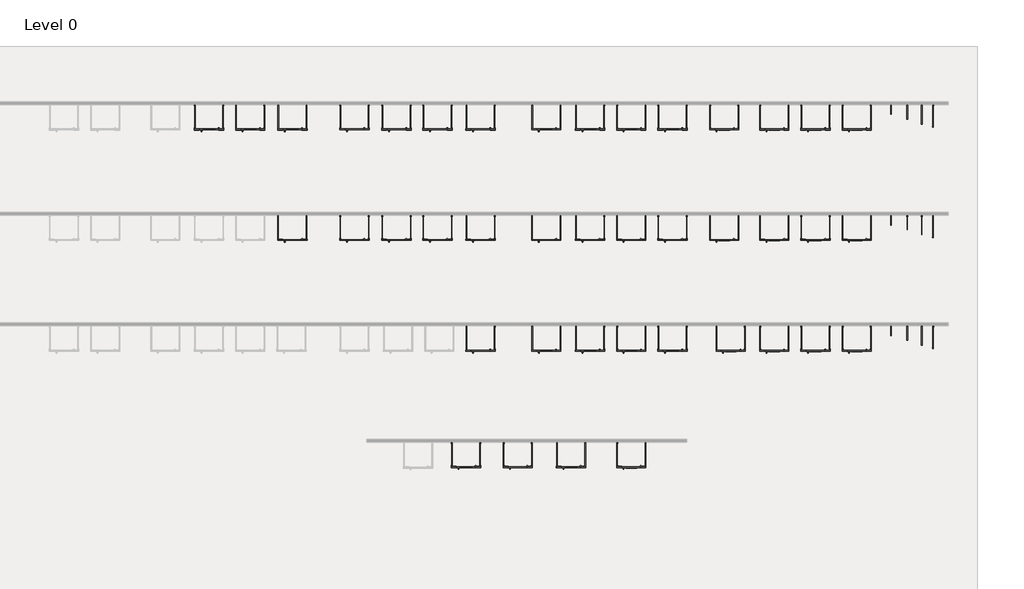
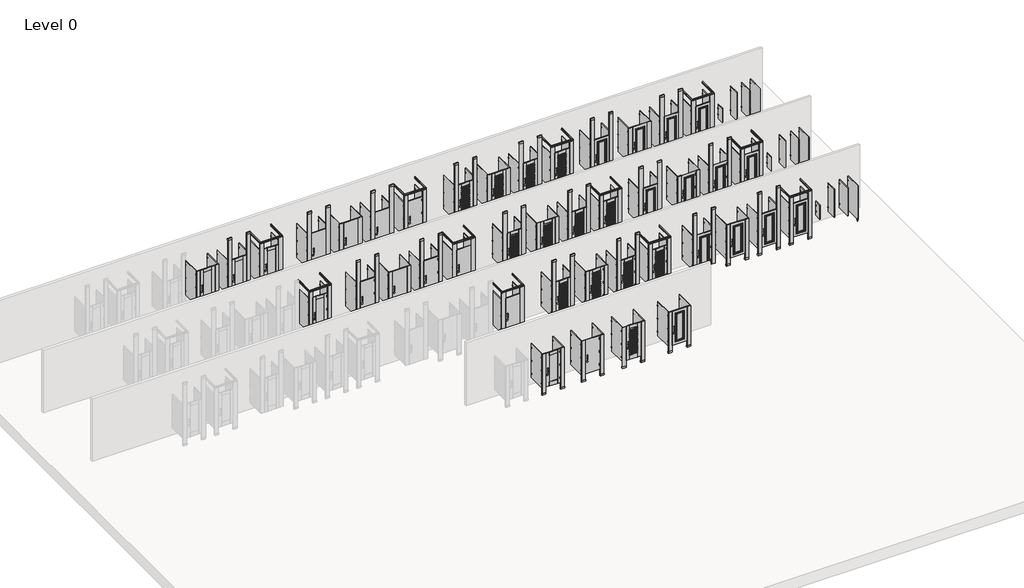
# One storey, part 2 of 2: 53 proxies.
"""IFC4 building model written with IfcOpenShell, lengths in millimetres."""

from ifc_helpers import new_model, si_unit, origin, place, context, project, spatial, transform, mapped, element, save
from components import specialty_equipment_fc4f7036, specialty_equipment_eb44fc01, specialty_equipment_aeacbdde, specialty_equipment_37ad36b8, specialty_equipment_d81d8e88, specialty_equipment_afbbe76a, specialty_equipment_23f0d180, specialty_equipment_b772b144, specialty_equipment_89fad2ef, specialty_equipment_a65be1ca, specialty_equipment_5617d1bd, specialty_equipment_bc4b3a95, compact_laminate_ceiling_hung_flat_panel_door_61d9c0c5, compact_laminate_ceiling_hung_louver_door_77dd7178, compact_laminate_ceiling_hung_molding_door_30a494e6, compact_laminate_floor_mounted_flat_panel_door_a3374b17, compact_laminate_floor_mounted_louver_door_74d75947, compact_laminate_floor_mounted_molding_door_0e6e7056, compact_laminate_floor_to_ceiling_flat_panel_door_64829fb1, compact_laminate_floor_to_ceiling_louver_door_2ef58aba, compact_laminate_floor_to_ceiling_molding_door_4631fa89, high_pressure_laminate_ceiling_hung_flat_panel_door_457f9348, high_pressure_laminate_ceiling_hung_louver_door_53e2b2da, high_pressure_laminate_ceiling_hung_molding_door_ac1d6351, high_pressure_laminate_floor_mounted_door_lite_door_59ee385d, high_pressure_laminate_floor_mounted_flat_panel_door_f86224eb, high_pressure_laminate_floor_mounted_louver_door_e92e4241, high_pressure_laminate_floor_mounted_molding_door_ac0f712a, high_pressure_laminate_floor_to_ceiling_louver_door_e7c8061b, high_pressure_laminate_floor_to_ceiling_molding_door_967f00b9, urinal_partition_12x24_dcd48c62, urinal_partition_12x24_2b7a6f32, urinal_partition_18x48_1ea6b7db, urinal_partition_18x48_9b326629, urinal_partition_24x48_73d95201, urinal_partition_24x48_a16d5c53, urinal_partition_create_custom_size_ba70e870, urinal_partition_create_custom_size_9d5b4721

model = new_model("IFC4")

# Units and contexts
model_context = context("Model", 3, world=origin())
ifc_project = project(units=[si_unit("LENGTHUNIT", "METRE", prefix="MILLI")], contexts=[model_context])

# Site, building, storey
site = spatial("IfcSite", under=ifc_project)
building = spatial("IfcBuilding", under=site)
storey = spatial("IfcBuildingStorey", under=building, Name="Level 0", Elevation=0.0)

# Proxies
placement = place(None, origin())
specialty_equipment_shape = specialty_equipment_fc4f7036(model_context)
element("IfcBuildingElementProxy", 1, Name="Toilet-Partition_Ironwood-Mfg_High-Pressure-Laminate : High Pressure Laminate - Floor to Ceiling - Door Lite Door", ObjectType="Toilet-Partition_Ironwood-Mfg_High-Pressure-Laminate : High Pressure Laminate - Floor to Ceiling - Door Lite Door", at=placement, inside=storey, context=model_context, shape_type="MappedRepresentation", body=[
    mapped(specialty_equipment_shape, transform((-6284.7127178, 12246.3462325, 0.0), x_axis=(1.0, 0.0, 0.0), y_axis=(0.0, 1.0, 0.0), z_axis=(0.0, 0.0, 1.0))),
])
specialty_equipment_2_shape = specialty_equipment_eb44fc01(model_context)
element("IfcBuildingElementProxy", 2, Name="Toilet-Partition_Ironwood-Mfg_High-Pressure-Laminate : High Pressure Laminate - Headrail Braced - Door Lite Door", ObjectType="Toilet-Partition_Ironwood-Mfg_High-Pressure-Laminate : High Pressure Laminate - Headrail Braced - Door Lite Door", at=placement, inside=storey, context=model_context, shape_type="MappedRepresentation", body=[
    mapped(specialty_equipment_2_shape, transform((-4960.1614549, 12246.3462325, 0.0), x_axis=(1.0, 0.0, 0.0), y_axis=(0.0, 1.0, 0.0), z_axis=(0.0, 0.0, 1.0))),
])
specialty_equipment_3_shape = specialty_equipment_aeacbdde(model_context)
element("IfcBuildingElementProxy", 3, Name="Toilet-Partition_Ironwood-Mfg_High-Pressure-Laminate : High Pressure Laminate - Floor to Ceiling - Flat Panel Door", ObjectType="Toilet-Partition_Ironwood-Mfg_High-Pressure-Laminate : High Pressure Laminate - Floor to Ceiling - Flat Panel Door", at=placement, inside=storey, context=model_context, shape_type="MappedRepresentation", body=[
    mapped(specialty_equipment_3_shape, transform((-398.0614549, 12246.3462325, 0.0), x_axis=(1.0, 0.0, 0.0), y_axis=(0.0, 1.0, 0.0), z_axis=(0.0, 0.0, 1.0))),
])
specialty_equipment_4_shape = specialty_equipment_37ad36b8(model_context)
element("IfcBuildingElementProxy", 4, Name="Toilet-Partition_Ironwood-Mfg_High-Pressure-Laminate : High Pressure Laminate - Headrail Braced - Flat Panel Door", ObjectType="Toilet-Partition_Ironwood-Mfg_High-Pressure-Laminate : High Pressure Laminate - Headrail Braced - Flat Panel Door", at=placement, inside=storey, context=model_context, shape_type="MappedRepresentation", body=[
    mapped(specialty_equipment_4_shape, transform((954.2872822, 12246.3462325, 0.0), x_axis=(1.0, 0.0, 0.0), y_axis=(0.0, 1.0, 0.0), z_axis=(0.0, 0.0, 1.0))),
])
specialty_equipment_5_shape = specialty_equipment_d81d8e88(model_context)
specialty_equipment_6_shape = specialty_equipment_afbbe76a(model_context)
element("IfcBuildingElementProxy", 5, Name="Toilet-Partition_Ironwood-Mfg_High-Pressure-Laminate : High Pressure Laminate - Headrail Braced - Louver Door", ObjectType="Toilet-Partition_Ironwood-Mfg_High-Pressure-Laminate : High Pressure Laminate - Headrail Braced - Louver Door", at=placement, inside=storey, context=model_context, shape_type="MappedRepresentation", body=[
    mapped(specialty_equipment_5_shape, transform((6987.0226526, 12246.3462325, 0.0), x_axis=(1.0, 0.0, 0.0), y_axis=(0.0, 1.0, 0.0), z_axis=(0.0, 0.0, 1.0))),
    mapped(specialty_equipment_6_shape, transform((6987.0226526, 12246.3462325, 0.0), x_axis=(1.0, 0.0, 0.0), y_axis=(0.0, 1.0, 0.0), z_axis=(0.0, 0.0, 1.0))),
])
specialty_equipment_7_shape = specialty_equipment_23f0d180(model_context)
element("IfcBuildingElementProxy", 6, Name="Toilet-Partition_Ironwood-Mfg_High-Pressure-Laminate : High Pressure Laminate - Headrail Braced - Molding Door", ObjectType="Toilet-Partition_Ironwood-Mfg_High-Pressure-Laminate : High Pressure Laminate - Headrail Braced - Molding Door", at=placement, inside=storey, context=model_context, shape_type="MappedRepresentation", body=[
    mapped(specialty_equipment_7_shape, transform((12778.2226526, 12246.3462325, 0.0), x_axis=(1.0, 0.0, 0.0), y_axis=(0.0, 1.0, 0.0), z_axis=(0.0, 0.0, 1.0))),
])
specialty_equipment_8_shape = specialty_equipment_b772b144(model_context)
element("IfcBuildingElementProxy", 7, Name="Toilet-Partition_Ironwood-Mfg_Compact-Laminate : Compact Laminate - Headrail Braced - Door Lite Door", ObjectType="Toilet-Partition_Ironwood-Mfg_Compact-Laminate : Compact Laminate - Headrail Braced - Door Lite Door", at=placement, inside=storey, context=model_context, shape_type="MappedRepresentation", body=[
    mapped(specialty_equipment_8_shape, transform((-4960.1614549, 8769.8462325, 0.0), x_axis=(1.0, 0.0, 0.0), y_axis=(0.0, 1.0, 0.0), z_axis=(0.0, 0.0, 1.0))),
])
specialty_equipment_9_shape = specialty_equipment_89fad2ef(model_context)
element("IfcBuildingElementProxy", 8, Name="Toilet-Partition_Ironwood-Mfg_Compact-Laminate : Compact Laminate - Headrail Braced - Flat Panel Door", ObjectType="Toilet-Partition_Ironwood-Mfg_Compact-Laminate : Compact Laminate - Headrail Braced - Flat Panel Door", at=placement, inside=storey, context=model_context, shape_type="MappedRepresentation", body=[
    mapped(specialty_equipment_9_shape, transform((954.2872822, 8769.8462325, 0.0), x_axis=(1.0, 0.0, 0.0), y_axis=(0.0, 1.0, 0.0), z_axis=(0.0, 0.0, 1.0))),
])
specialty_equipment_10_shape = specialty_equipment_a65be1ca(model_context)
specialty_equipment_11_shape = specialty_equipment_5617d1bd(model_context)
element("IfcBuildingElementProxy", 9, Name="Toilet-Partition_Ironwood-Mfg_Compact-Laminate : Compact Laminate - Headrail Braced - Louver Door", ObjectType="Toilet-Partition_Ironwood-Mfg_Compact-Laminate : Compact Laminate - Headrail Braced - Louver Door", at=placement, inside=storey, context=model_context, shape_type="MappedRepresentation", body=[
    mapped(specialty_equipment_10_shape, transform((6987.0226526, 8769.8462325, 0.0), x_axis=(1.0, 0.0, 0.0), y_axis=(0.0, 1.0, 0.0), z_axis=(0.0, 0.0, 1.0))),
    mapped(specialty_equipment_11_shape, transform((6987.0226526, 8769.8462325, 0.0), x_axis=(1.0, 0.0, 0.0), y_axis=(0.0, 1.0, 0.0), z_axis=(0.0, 0.0, 1.0))),
])
specialty_equipment_12_shape = specialty_equipment_bc4b3a95(model_context)
element("IfcBuildingElementProxy", 10, Name="Toilet-Partition_Ironwood-Mfg_Compact-Laminate : Compact Laminate - Headrail Braced - Molding Door", ObjectType="Toilet-Partition_Ironwood-Mfg_Compact-Laminate : Compact Laminate - Headrail Braced - Molding Door", at=placement, inside=storey, context=model_context, shape_type="MappedRepresentation", body=[
    mapped(specialty_equipment_12_shape, transform((12778.2226526, 8769.8462325, 0.0), x_axis=(1.0, 0.0, 0.0), y_axis=(0.0, 1.0, 0.0), z_axis=(0.0, 0.0, 1.0))),
])
element("IfcBuildingElementProxy", 11, Name="Toilet-Partition_Ironwood-Mfg_Wood-Veneer : Wood Veneer - Headrail Braced - Flat Panel Door", ObjectType="Toilet-Partition_Ironwood-Mfg_Wood-Veneer : Wood Veneer - Headrail Braced - Flat Panel Door", at=placement, inside=storey, context=model_context, shape_type="MappedRepresentation", body=[
    mapped(specialty_equipment_4_shape, transform((954.2872822, 5293.3462325, 0.0), x_axis=(1.0, 0.0, 0.0), y_axis=(0.0, 1.0, 0.0), z_axis=(0.0, 0.0, 1.0))),
])
element("IfcBuildingElementProxy", 12, Name="Toilet-Partition_Ironwood-Mfg_Wood-Veneer : Wood Veneer - Headrail Braced - Louver Door", ObjectType="Toilet-Partition_Ironwood-Mfg_Wood-Veneer : Wood Veneer - Headrail Braced - Louver Door", at=placement, inside=storey, context=model_context, shape_type="MappedRepresentation", body=[
    mapped(specialty_equipment_5_shape, transform((6987.0226526, 5293.3462325, 0.0), x_axis=(1.0, 0.0, 0.0), y_axis=(0.0, 1.0, 0.0), z_axis=(0.0, 0.0, 1.0))),
    mapped(specialty_equipment_6_shape, transform((6987.0226526, 5293.3462325, 0.0), x_axis=(1.0, 0.0, 0.0), y_axis=(0.0, 1.0, 0.0), z_axis=(0.0, 0.0, 1.0))),
])
element("IfcBuildingElementProxy", 13, Name="Toilet-Partition_Ironwood-Mfg_Wood-Veneer : Wood Veneer - Headrail Braced - Molding Door", ObjectType="Toilet-Partition_Ironwood-Mfg_Wood-Veneer : Wood Veneer - Headrail Braced - Molding Door", at=placement, inside=storey, context=model_context, shape_type="MappedRepresentation", body=[
    mapped(specialty_equipment_7_shape, transform((12778.2226526, 5293.3462325, 0.0), x_axis=(1.0, 0.0, 0.0), y_axis=(0.0, 1.0, 0.0), z_axis=(0.0, 0.0, 1.0))),
])
compact_laminate_ceiling_hung_flat_panel_door_shape = compact_laminate_ceiling_hung_flat_panel_door_61d9c0c5(model_context)
element("IfcBuildingElementProxy", 14, Name="Toilet-Partition_Ironwood-Mfg_Compact-Laminate : Compact Laminate - Ceiling Hung - Flat Panel Door", ObjectType="Toilet-Partition_Ironwood-Mfg_Compact-Laminate : Compact Laminate - Ceiling Hung - Flat Panel Door", at=placement, inside=storey, context=model_context, shape_type="MappedRepresentation", body=[
    mapped(compact_laminate_ceiling_hung_flat_panel_door_shape, transform((-3008.1127178, 8769.8462325, 0.0), x_axis=(1.0, 0.0, 0.0), y_axis=(0.0, 1.0, 0.0), z_axis=(0.0, 0.0, 1.0))),
])
compact_laminate_ceiling_hung_louver_door_shape = compact_laminate_ceiling_hung_louver_door_77dd7178(model_context)
element("IfcBuildingElementProxy", 15, Name="Toilet-Partition_Ironwood-Mfg_Compact-Laminate : Compact Laminate - Ceiling Hung - Louver Door", ObjectType="Toilet-Partition_Ironwood-Mfg_Compact-Laminate : Compact Laminate - Ceiling Hung - Louver Door", at=placement, inside=storey, context=model_context, shape_type="MappedRepresentation", body=[
    mapped(compact_laminate_ceiling_hung_louver_door_shape, transform((3024.6226526, 8769.8462325, 0.0), x_axis=(1.0, 0.0, 0.0), y_axis=(0.0, 1.0, 0.0), z_axis=(0.0, 0.0, 1.0))),
])
compact_laminate_ceiling_hung_molding_door_shape = compact_laminate_ceiling_hung_molding_door_30a494e6(model_context)
element("IfcBuildingElementProxy", 16, Name="Toilet-Partition_Ironwood-Mfg_Compact-Laminate : Compact Laminate - Ceiling Hung - Molding Door", ObjectType="Toilet-Partition_Ironwood-Mfg_Compact-Laminate : Compact Laminate - Ceiling Hung - Molding Door", at=placement, inside=storey, context=model_context, shape_type="MappedRepresentation", body=[
    mapped(compact_laminate_ceiling_hung_molding_door_shape, transform((8614.3010451, 8769.8462325, 0.0), x_axis=(1.0, 0.0, 0.0), y_axis=(0.0, 1.0, 0.0), z_axis=(0.0, 0.0, 1.0))),
])
compact_laminate_floor_mounted_flat_panel_door_shape = compact_laminate_floor_mounted_flat_panel_door_a3374b17(model_context)
element("IfcBuildingElementProxy", 17, Name="Toilet-Partition_Ironwood-Mfg_Compact-Laminate : Compact Laminate - Floor Mounted - Flat Panel Door", ObjectType="Toilet-Partition_Ironwood-Mfg_Compact-Laminate : Compact Laminate - Floor Mounted - Flat Panel Door", at=placement, inside=storey, context=model_context, shape_type="MappedRepresentation", body=[
    mapped(compact_laminate_floor_mounted_flat_panel_door_shape, transform((-1686.8614549, 8769.8462325, 0.0), x_axis=(1.0, 0.0, 0.0), y_axis=(0.0, 1.0, 0.0), z_axis=(0.0, 0.0, 1.0))),
])
compact_laminate_floor_mounted_louver_door_shape = compact_laminate_floor_mounted_louver_door_74d75947(model_context)
element("IfcBuildingElementProxy", 18, Name="Toilet-Partition_Ironwood-Mfg_Compact-Laminate : Compact Laminate - Floor Mounted - Louver Door", ObjectType="Toilet-Partition_Ironwood-Mfg_Compact-Laminate : Compact Laminate - Floor Mounted - Louver Door", at=placement, inside=storey, context=model_context, shape_type="MappedRepresentation", body=[
    mapped(compact_laminate_floor_mounted_louver_door_shape, transform((4396.2226526, 8769.8462325, 0.0), x_axis=(1.0, 0.0, 0.0), y_axis=(0.0, 1.0, 0.0), z_axis=(0.0, 0.0, 1.0))),
])
compact_laminate_floor_mounted_molding_door_shape = compact_laminate_floor_mounted_molding_door_0e6e7056(model_context)
element("IfcBuildingElementProxy", 19, Name="Toilet-Partition_Ironwood-Mfg_Compact-Laminate : Compact Laminate - Floor Mounted - Molding Door", ObjectType="Toilet-Partition_Ironwood-Mfg_Compact-Laminate : Compact Laminate - Floor Mounted - Molding Door", at=placement, inside=storey, context=model_context, shape_type="MappedRepresentation", body=[
    mapped(compact_laminate_floor_mounted_molding_door_shape, transform((10187.4226526, 8769.8462325, 0.0), x_axis=(1.0, 0.0, 0.0), y_axis=(0.0, 1.0, 0.0), z_axis=(0.0, 0.0, 1.0))),
])
compact_laminate_floor_to_ceiling_flat_panel_door_shape = compact_laminate_floor_to_ceiling_flat_panel_door_64829fb1(model_context)
element("IfcBuildingElementProxy", 20, Name="Toilet-Partition_Ironwood-Mfg_Compact-Laminate : Compact Laminate - Floor to Ceiling - Flat Panel Door", ObjectType="Toilet-Partition_Ironwood-Mfg_Compact-Laminate : Compact Laminate - Floor to Ceiling - Flat Panel Door", at=placement, inside=storey, context=model_context, shape_type="MappedRepresentation", body=[
    mapped(compact_laminate_floor_to_ceiling_flat_panel_door_shape, transform((-398.0614549, 8769.8462325, 0.0), x_axis=(1.0, 0.0, 0.0), y_axis=(0.0, 1.0, 0.0), z_axis=(0.0, 0.0, 1.0))),
])
compact_laminate_floor_to_ceiling_louver_door_shape = compact_laminate_floor_to_ceiling_louver_door_2ef58aba(model_context)
element("IfcBuildingElementProxy", 21, Name="Toilet-Partition_Ironwood-Mfg_Compact-Laminate : Compact Laminate - Floor to Ceiling - Louver Door", ObjectType="Toilet-Partition_Ironwood-Mfg_Compact-Laminate : Compact Laminate - Floor to Ceiling - Louver Door", at=placement, inside=storey, context=model_context, shape_type="MappedRepresentation", body=[
    mapped(compact_laminate_floor_to_ceiling_louver_door_shape, transform((5691.6226526, 8769.8462325, 0.0), x_axis=(1.0, 0.0, 0.0), y_axis=(0.0, 1.0, 0.0), z_axis=(0.0, 0.0, 1.0))),
])
compact_laminate_floor_to_ceiling_molding_door_shape = compact_laminate_floor_to_ceiling_molding_door_4631fa89(model_context)
element("IfcBuildingElementProxy", 22, Name="Toilet-Partition_Ironwood-Mfg_Compact-Laminate : Compact Laminate - Floor to Ceiling - Molding Door", ObjectType="Toilet-Partition_Ironwood-Mfg_Compact-Laminate : Compact Laminate - Floor to Ceiling - Molding Door", at=placement, inside=storey, context=model_context, shape_type="MappedRepresentation", body=[
    mapped(compact_laminate_floor_to_ceiling_molding_door_shape, transform((11482.8226526, 8769.8462325, 0.0), x_axis=(1.0, 0.0, 0.0), y_axis=(0.0, 1.0, 0.0), z_axis=(0.0, 0.0, 1.0))),
])
high_pressure_laminate_ceiling_hung_flat_panel_door_shape = high_pressure_laminate_ceiling_hung_flat_panel_door_457f9348(model_context)
element("IfcBuildingElementProxy", 23, Name="Toilet-Partition_Ironwood-Mfg_High-Pressure-Laminate : High Pressure Laminate - Ceiling Hung - Flat Panel Door", ObjectType="Toilet-Partition_Ironwood-Mfg_High-Pressure-Laminate : High Pressure Laminate - Ceiling Hung - Flat Panel Door", at=placement, inside=storey, context=model_context, shape_type="MappedRepresentation", body=[
    mapped(high_pressure_laminate_ceiling_hung_flat_panel_door_shape, transform((-3008.1127178, 12246.3462325, 0.0), x_axis=(1.0, 0.0, 0.0), y_axis=(0.0, 1.0, 0.0), z_axis=(0.0, 0.0, 1.0))),
])
high_pressure_laminate_ceiling_hung_louver_door_shape = high_pressure_laminate_ceiling_hung_louver_door_53e2b2da(model_context)
element("IfcBuildingElementProxy", 24, Name="Toilet-Partition_Ironwood-Mfg_High-Pressure-Laminate : High Pressure Laminate - Ceiling Hung - Louver Door", ObjectType="Toilet-Partition_Ironwood-Mfg_High-Pressure-Laminate : High Pressure Laminate - Ceiling Hung - Louver Door", at=placement, inside=storey, context=model_context, shape_type="MappedRepresentation", body=[
    mapped(high_pressure_laminate_ceiling_hung_louver_door_shape, transform((3024.6226526, 12246.3462325, 0.0), x_axis=(1.0, 0.0, 0.0), y_axis=(0.0, 1.0, 0.0), z_axis=(0.0, 0.0, 1.0))),
])
high_pressure_laminate_ceiling_hung_molding_door_shape = high_pressure_laminate_ceiling_hung_molding_door_ac1d6351(model_context)
element("IfcBuildingElementProxy", 25, Name="Toilet-Partition_Ironwood-Mfg_High-Pressure-Laminate : High Pressure Laminate - Ceiling Hung - Molding Door", ObjectType="Toilet-Partition_Ironwood-Mfg_High-Pressure-Laminate : High Pressure Laminate - Ceiling Hung - Molding Door", at=placement, inside=storey, context=model_context, shape_type="MappedRepresentation", body=[
    mapped(high_pressure_laminate_ceiling_hung_molding_door_shape, transform((8614.3010451, 12246.3462325, 0.0), x_axis=(1.0, 0.0, 0.0), y_axis=(0.0, 1.0, 0.0), z_axis=(0.0, 0.0, 1.0))),
])
high_pressure_laminate_floor_mounted_door_lite_door_shape = high_pressure_laminate_floor_mounted_door_lite_door_59ee385d(model_context)
element("IfcBuildingElementProxy", 26, Name="Toilet-Partition_Ironwood-Mfg_High-Pressure-Laminate : High Pressure Laminate - Floor Mounted - Door Lite Door", ObjectType="Toilet-Partition_Ironwood-Mfg_High-Pressure-Laminate : High Pressure Laminate - Floor Mounted - Door Lite Door", at=placement, inside=storey, context=model_context, shape_type="MappedRepresentation", body=[
    mapped(high_pressure_laminate_floor_mounted_door_lite_door_shape, transform((-7580.1127178, 12246.3462325, 0.0), x_axis=(1.0, 0.0, 0.0), y_axis=(0.0, 1.0, 0.0), z_axis=(0.0, 0.0, 1.0))),
])
high_pressure_laminate_floor_mounted_flat_panel_door_shape = high_pressure_laminate_floor_mounted_flat_panel_door_f86224eb(model_context)
element("IfcBuildingElementProxy", 27, Name="Toilet-Partition_Ironwood-Mfg_High-Pressure-Laminate : High Pressure Laminate - Floor Mounted - Flat Panel Door", ObjectType="Toilet-Partition_Ironwood-Mfg_High-Pressure-Laminate : High Pressure Laminate - Floor Mounted - Flat Panel Door", at=placement, inside=storey, context=model_context, shape_type="MappedRepresentation", body=[
    mapped(high_pressure_laminate_floor_mounted_flat_panel_door_shape, transform((-1686.8614549, 12246.3462325, 0.0), x_axis=(1.0, 0.0, 0.0), y_axis=(0.0, 1.0, 0.0), z_axis=(0.0, 0.0, 1.0))),
])
high_pressure_laminate_floor_mounted_louver_door_shape = high_pressure_laminate_floor_mounted_louver_door_e92e4241(model_context)
element("IfcBuildingElementProxy", 28, Name="Toilet-Partition_Ironwood-Mfg_High-Pressure-Laminate : High Pressure Laminate - Floor Mounted - Louver Door", ObjectType="Toilet-Partition_Ironwood-Mfg_High-Pressure-Laminate : High Pressure Laminate - Floor Mounted - Louver Door", at=placement, inside=storey, context=model_context, shape_type="MappedRepresentation", body=[
    mapped(high_pressure_laminate_floor_mounted_louver_door_shape, transform((4396.2226526, 12246.3462325, 0.0), x_axis=(1.0, 0.0, 0.0), y_axis=(0.0, 1.0, 0.0), z_axis=(0.0, 0.0, 1.0))),
])
high_pressure_laminate_floor_mounted_molding_door_shape = high_pressure_laminate_floor_mounted_molding_door_ac0f712a(model_context)
element("IfcBuildingElementProxy", 29, Name="Toilet-Partition_Ironwood-Mfg_High-Pressure-Laminate : High Pressure Laminate - Floor Mounted - Molding Door", ObjectType="Toilet-Partition_Ironwood-Mfg_High-Pressure-Laminate : High Pressure Laminate - Floor Mounted - Molding Door", at=placement, inside=storey, context=model_context, shape_type="MappedRepresentation", body=[
    mapped(high_pressure_laminate_floor_mounted_molding_door_shape, transform((10187.4226526, 12246.3462325, 0.0), x_axis=(1.0, 0.0, 0.0), y_axis=(0.0, 1.0, 0.0), z_axis=(0.0, 0.0, 1.0))),
])
high_pressure_laminate_floor_to_ceiling_louver_door_shape = high_pressure_laminate_floor_to_ceiling_louver_door_e7c8061b(model_context)
element("IfcBuildingElementProxy", 30, Name="Toilet-Partition_Ironwood-Mfg_High-Pressure-Laminate : High Pressure Laminate - Floor to Ceiling - Louver Door", ObjectType="Toilet-Partition_Ironwood-Mfg_High-Pressure-Laminate : High Pressure Laminate - Floor to Ceiling - Louver Door", at=placement, inside=storey, context=model_context, shape_type="MappedRepresentation", body=[
    mapped(high_pressure_laminate_floor_to_ceiling_louver_door_shape, transform((5691.6226526, 12246.3462325, 0.0), x_axis=(1.0, 0.0, 0.0), y_axis=(0.0, 1.0, 0.0), z_axis=(0.0, 0.0, 1.0))),
])
high_pressure_laminate_floor_to_ceiling_molding_door_shape = high_pressure_laminate_floor_to_ceiling_molding_door_967f00b9(model_context)
element("IfcBuildingElementProxy", 31, Name="Toilet-Partition_Ironwood-Mfg_High-Pressure-Laminate : High Pressure Laminate - Floor to Ceiling - Molding Door", ObjectType="Toilet-Partition_Ironwood-Mfg_High-Pressure-Laminate : High Pressure Laminate - Floor to Ceiling - Molding Door", at=placement, inside=storey, context=model_context, shape_type="MappedRepresentation", body=[
    mapped(high_pressure_laminate_floor_to_ceiling_molding_door_shape, transform((11482.8226526, 12246.3462325, 0.0), x_axis=(1.0, 0.0, 0.0), y_axis=(0.0, 1.0, 0.0), z_axis=(0.0, 0.0, 1.0))),
])
urinal_partition_12x24_shape = urinal_partition_12x24_dcd48c62(model_context)
element("IfcBuildingElementProxy", 32, Name="Urinal-Partition_Ironwood-Mfg : Urinal Partition - 12x24", ObjectType="Urinal-Partition_Ironwood-Mfg : Urinal Partition - 12x24", at=placement, inside=storey, context=model_context, shape_type="MappedRepresentation", body=[
    mapped(urinal_partition_12x24_shape, transform((14098.7872822, 5293.3462325, 0.0), x_axis=(1.0, 0.0, 0.0), y_axis=(0.0, 0.0, 1.0), z_axis=(0.0, -1.0, 0.0))),
])
urinal_partition_12x24_2_shape = urinal_partition_12x24_2b7a6f32(model_context)
element("IfcBuildingElementProxy", 33, Name="Urinal-Partition_Ironwood-Mfg : Urinal Partition - 12x24", ObjectType="Urinal-Partition_Ironwood-Mfg : Urinal Partition - 12x24", at=placement, inside=storey, context=model_context, shape_type="MappedRepresentation", body=[
    mapped(urinal_partition_12x24_2_shape, transform((14098.7872822, 8769.8462325, 0.0), x_axis=(1.0, 0.0, 0.0), y_axis=(0.0, 0.0, 1.0), z_axis=(0.0, -1.0, 0.0))),
])
element("IfcBuildingElementProxy", 34, Name="Urinal-Partition_Ironwood-Mfg : Urinal Partition - 12x24", ObjectType="Urinal-Partition_Ironwood-Mfg : Urinal Partition - 12x24", at=placement, inside=storey, context=model_context, shape_type="MappedRepresentation", body=[
    mapped(urinal_partition_12x24_shape, transform((14098.7872822, 12246.3462325, 0.0), x_axis=(1.0, 0.0, 0.0), y_axis=(0.0, 0.0, 1.0), z_axis=(0.0, -1.0, 0.0))),
])
urinal_partition_18x48_shape = urinal_partition_18x48_1ea6b7db(model_context)
element("IfcBuildingElementProxy", 35, Name="Urinal-Partition_Ironwood-Mfg : Urinal Partition - 18x48", ObjectType="Urinal-Partition_Ironwood-Mfg : Urinal Partition - 18x48", at=placement, inside=storey, context=model_context, shape_type="MappedRepresentation", body=[
    mapped(urinal_partition_18x48_shape, transform((14606.7872822, 5293.3462325, 0.0), x_axis=(1.0, 0.0, 0.0), y_axis=(0.0, 0.0, 1.0), z_axis=(0.0, -1.0, 0.0))),
])
urinal_partition_18x48_2_shape = urinal_partition_18x48_9b326629(model_context)
element("IfcBuildingElementProxy", 36, Name="Urinal-Partition_Ironwood-Mfg : Urinal Partition - 18x48", ObjectType="Urinal-Partition_Ironwood-Mfg : Urinal Partition - 18x48", at=placement, inside=storey, context=model_context, shape_type="MappedRepresentation", body=[
    mapped(urinal_partition_18x48_2_shape, transform((14606.7872822, 8769.8462325, 0.0), x_axis=(1.0, 0.0, 0.0), y_axis=(0.0, 0.0, 1.0), z_axis=(0.0, -1.0, 0.0))),
])
element("IfcBuildingElementProxy", 37, Name="Urinal-Partition_Ironwood-Mfg : Urinal Partition - 18x48", ObjectType="Urinal-Partition_Ironwood-Mfg : Urinal Partition - 18x48", at=placement, inside=storey, context=model_context, shape_type="MappedRepresentation", body=[
    mapped(urinal_partition_18x48_shape, transform((14606.7872822, 12246.3462325, 0.0), x_axis=(1.0, 0.0, 0.0), y_axis=(0.0, 0.0, 1.0), z_axis=(0.0, -1.0, 0.0))),
])
urinal_partition_24x48_shape = urinal_partition_24x48_73d95201(model_context)
element("IfcBuildingElementProxy", 38, Name="Urinal-Partition_Ironwood-Mfg : Urinal Partition - 24x48", ObjectType="Urinal-Partition_Ironwood-Mfg : Urinal Partition - 24x48", at=placement, inside=storey, context=model_context, shape_type="MappedRepresentation", body=[
    mapped(urinal_partition_24x48_shape, transform((15063.9872822, 5293.3462325, 0.0), x_axis=(1.0, 0.0, 0.0), y_axis=(0.0, 0.0, 1.0), z_axis=(0.0, -1.0, 0.0))),
])
urinal_partition_24x48_2_shape = urinal_partition_24x48_a16d5c53(model_context)
element("IfcBuildingElementProxy", 39, Name="Urinal-Partition_Ironwood-Mfg : Urinal Partition - 24x48", ObjectType="Urinal-Partition_Ironwood-Mfg : Urinal Partition - 24x48", at=placement, inside=storey, context=model_context, shape_type="MappedRepresentation", body=[
    mapped(urinal_partition_24x48_2_shape, transform((15063.9872822, 8769.8462325, 0.0), x_axis=(1.0, 0.0, 0.0), y_axis=(0.0, 0.0, 1.0), z_axis=(0.0, -1.0, 0.0))),
])
element("IfcBuildingElementProxy", 40, Name="Urinal-Partition_Ironwood-Mfg : Urinal Partition - 24x48", ObjectType="Urinal-Partition_Ironwood-Mfg : Urinal Partition - 24x48", at=placement, inside=storey, context=model_context, shape_type="MappedRepresentation", body=[
    mapped(urinal_partition_24x48_shape, transform((15063.9872822, 12246.3462325, 0.0), x_axis=(1.0, 0.0, 0.0), y_axis=(0.0, 0.0, 1.0), z_axis=(0.0, -1.0, 0.0))),
])
urinal_partition_create_custom_size_shape = urinal_partition_create_custom_size_ba70e870(model_context)
element("IfcBuildingElementProxy", 41, Name="Urinal-Partition_Ironwood-Mfg : Urinal Partition - Create Custom Size", ObjectType="Urinal-Partition_Ironwood-Mfg : Urinal Partition - Create Custom Size", at=placement, inside=storey, context=model_context, shape_type="MappedRepresentation", body=[
    mapped(urinal_partition_create_custom_size_shape, transform((15419.5872822, 5293.3462325, 0.0), x_axis=(1.0, 0.0, 0.0), y_axis=(0.0, 0.0, 1.0), z_axis=(0.0, -1.0, 0.0))),
])
urinal_partition_create_custom_size_2_shape = urinal_partition_create_custom_size_9d5b4721(model_context)
element("IfcBuildingElementProxy", 42, Name="Urinal-Partition_Ironwood-Mfg : Urinal Partition - Create Custom Size", ObjectType="Urinal-Partition_Ironwood-Mfg : Urinal Partition - Create Custom Size", at=placement, inside=storey, context=model_context, shape_type="MappedRepresentation", body=[
    mapped(urinal_partition_create_custom_size_2_shape, transform((15419.5872822, 8769.8462325, 0.0), x_axis=(1.0, 0.0, 0.0), y_axis=(0.0, 0.0, 1.0), z_axis=(0.0, -1.0, 0.0))),
])
element("IfcBuildingElementProxy", 43, Name="Urinal-Partition_Ironwood-Mfg : Urinal Partition - Create Custom Size", ObjectType="Urinal-Partition_Ironwood-Mfg : Urinal Partition - Create Custom Size", at=placement, inside=storey, context=model_context, shape_type="MappedRepresentation", body=[
    mapped(urinal_partition_create_custom_size_shape, transform((15419.5872822, 12246.3462325, 0.0), x_axis=(1.0, 0.0, 0.0), y_axis=(0.0, 0.0, 1.0), z_axis=(0.0, -1.0, 0.0))),
])
element("IfcBuildingElementProxy", 44, Name="Toilet-Partition_Ironwood-Mfg_Wood-Veneer : Wood Veneer - Ceiling Hung - Louver Door", ObjectType="Toilet-Partition_Ironwood-Mfg_Wood-Veneer : Wood Veneer - Ceiling Hung - Louver Door", at=placement, inside=storey, context=model_context, shape_type="MappedRepresentation", body=[
    mapped(high_pressure_laminate_ceiling_hung_louver_door_shape, transform((3024.6226526, 5293.3462325, 0.0), x_axis=(1.0, 0.0, 0.0), y_axis=(0.0, 1.0, 0.0), z_axis=(0.0, 0.0, 1.0))),
])
element("IfcBuildingElementProxy", 45, Name="Toilet-Partition_Ironwood-Mfg_Wood-Veneer : Wood Veneer - Ceiling Hung - Molding Door", ObjectType="Toilet-Partition_Ironwood-Mfg_Wood-Veneer : Wood Veneer - Ceiling Hung - Molding Door", at=placement, inside=storey, context=model_context, shape_type="MappedRepresentation", body=[
    mapped(high_pressure_laminate_ceiling_hung_molding_door_shape, transform((8815.8226526, 5293.3462325, 0.0), x_axis=(1.0, 0.0, 0.0), y_axis=(0.0, 1.0, 0.0), z_axis=(0.0, 0.0, 1.0))),
])
element("IfcBuildingElementProxy", 46, Name="Toilet-Partition_Ironwood-Mfg_Wood-Veneer : Wood Veneer - Floor Mounted - Door Lite Door", ObjectType="Toilet-Partition_Ironwood-Mfg_Wood-Veneer : Wood Veneer - Floor Mounted - Door Lite Door", at=placement, inside=storey, context=model_context, shape_type="MappedRepresentation", body=[
    mapped(high_pressure_laminate_floor_mounted_door_lite_door_shape, transform((497.5385451, 1635.7462325, 0.0), x_axis=(1.0, 0.0, 0.0), y_axis=(0.0, 1.0, 0.0), z_axis=(0.0, 0.0, 1.0))),
])
element("IfcBuildingElementProxy", 47, Name="Toilet-Partition_Ironwood-Mfg_Wood-Veneer : Wood Veneer - Floor Mounted - Flat Panel Door", ObjectType="Toilet-Partition_Ironwood-Mfg_Wood-Veneer : Wood Veneer - Floor Mounted - Flat Panel Door", at=placement, inside=storey, context=model_context, shape_type="MappedRepresentation", body=[
    mapped(high_pressure_laminate_floor_mounted_flat_panel_door_shape, transform((2123.1385451, 1635.7462325, 0.0), x_axis=(1.0, 0.0, 0.0), y_axis=(0.0, 1.0, 0.0), z_axis=(0.0, 0.0, 1.0))),
])
element("IfcBuildingElementProxy", 48, Name="Toilet-Partition_Ironwood-Mfg_Wood-Veneer : Wood Veneer - Floor Mounted - Louver Door", ObjectType="Toilet-Partition_Ironwood-Mfg_Wood-Veneer : Wood Veneer - Floor Mounted - Louver Door", at=placement, inside=storey, context=model_context, shape_type="MappedRepresentation", body=[
    mapped(high_pressure_laminate_floor_mounted_louver_door_shape, transform((4396.2226526, 5293.3462325, 0.0), x_axis=(1.0, 0.0, 0.0), y_axis=(0.0, 1.0, 0.0), z_axis=(0.0, 0.0, 1.0))),
])
element("IfcBuildingElementProxy", 49, Name="Toilet-Partition_Ironwood-Mfg_Wood-Veneer : Wood Veneer - Floor Mounted - Louver Door", ObjectType="Toilet-Partition_Ironwood-Mfg_Wood-Veneer : Wood Veneer - Floor Mounted - Louver Door", at=placement, inside=storey, context=model_context, shape_type="MappedRepresentation", body=[
    mapped(high_pressure_laminate_floor_mounted_louver_door_shape, transform((3799.5385451, 1635.7462325, 0.0), x_axis=(1.0, 0.0, 0.0), y_axis=(0.0, 1.0, 0.0), z_axis=(0.0, 0.0, 1.0))),
])
element("IfcBuildingElementProxy", 50, Name="Toilet-Partition_Ironwood-Mfg_Wood-Veneer : Wood Veneer - Floor Mounted - Molding Door", ObjectType="Toilet-Partition_Ironwood-Mfg_Wood-Veneer : Wood Veneer - Floor Mounted - Molding Door", at=placement, inside=storey, context=model_context, shape_type="MappedRepresentation", body=[
    mapped(high_pressure_laminate_floor_mounted_molding_door_shape, transform((10187.4226526, 5293.3462325, 0.0), x_axis=(1.0, 0.0, 0.0), y_axis=(0.0, 1.0, 0.0), z_axis=(0.0, 0.0, 1.0))),
])
element("IfcBuildingElementProxy", 51, Name="Toilet-Partition_Ironwood-Mfg_Wood-Veneer : Wood Veneer - Floor Mounted - Molding Door", ObjectType="Toilet-Partition_Ironwood-Mfg_Wood-Veneer : Wood Veneer - Floor Mounted - Molding Door", at=placement, inside=storey, context=model_context, shape_type="MappedRepresentation", body=[
    mapped(high_pressure_laminate_floor_mounted_molding_door_shape, transform((5691.6226526, 1635.7462325, 0.0), x_axis=(1.0, 0.0, 0.0), y_axis=(0.0, 1.0, 0.0), z_axis=(0.0, 0.0, 1.0))),
])
element("IfcBuildingElementProxy", 52, Name="Toilet-Partition_Ironwood-Mfg_Wood-Veneer : Wood Veneer - Floor to Ceiling - Louver Door", ObjectType="Toilet-Partition_Ironwood-Mfg_Wood-Veneer : Wood Veneer - Floor to Ceiling - Louver Door", at=placement, inside=storey, context=model_context, shape_type="MappedRepresentation", body=[
    mapped(high_pressure_laminate_floor_to_ceiling_louver_door_shape, transform((5691.6226526, 5293.3462325, 0.0), x_axis=(1.0, 0.0, 0.0), y_axis=(0.0, 1.0, 0.0), z_axis=(0.0, 0.0, 1.0))),
])
element("IfcBuildingElementProxy", 53, Name="Toilet-Partition_Ironwood-Mfg_Wood-Veneer : Wood Veneer - Floor to Ceiling - Molding Door", ObjectType="Toilet-Partition_Ironwood-Mfg_Wood-Veneer : Wood Veneer - Floor to Ceiling - Molding Door", at=placement, inside=storey, context=model_context, shape_type="MappedRepresentation", body=[
    mapped(high_pressure_laminate_floor_to_ceiling_molding_door_shape, transform((11482.8226526, 5293.3462325, 0.0), x_axis=(1.0, 0.0, 0.0), y_axis=(0.0, 1.0, 0.0), z_axis=(0.0, 0.0, 1.0))),
])

save(model, "model.ifc")
